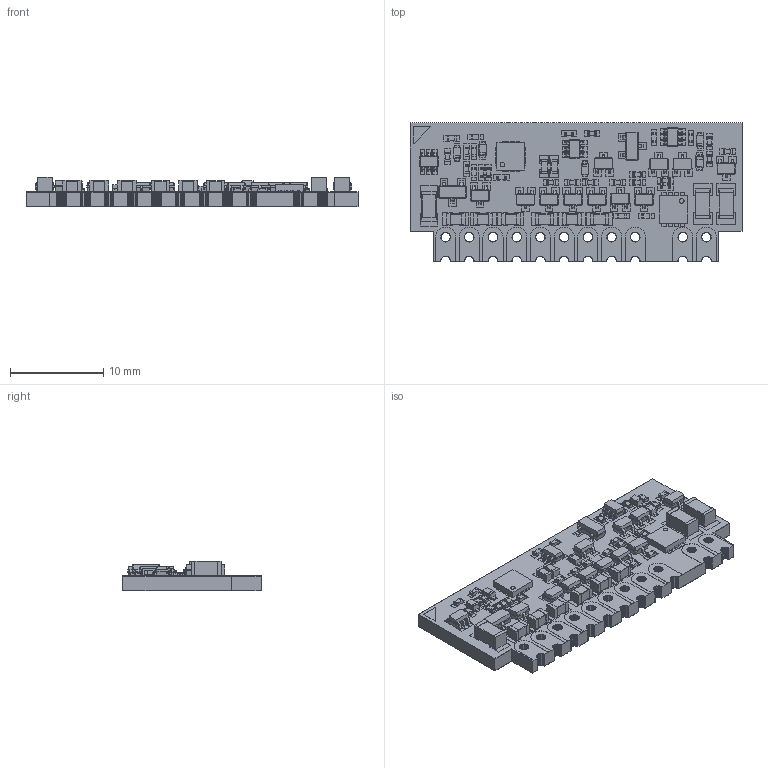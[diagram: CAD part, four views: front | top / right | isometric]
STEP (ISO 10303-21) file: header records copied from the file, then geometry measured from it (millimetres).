
FILE_DESCRIPTION(('FreeCAD Model'),'2;1');
FILE_NAME('Open CASCADE Shape Model','2025-12-16T10:20:08',(''),(''), 'Open CASCADE STEP processor 7.8','FreeCAD','Unknown');
FILE_SCHEMA(('AUTOMOTIVE_DESIGN { 1 0 10303 214 1 1 1 1 }'));
Products named in the file (1): Ag59FE_Detailed (Solid)
Bounding box: 35.56 x 14.81 x 3.2 mm (x, y, z)
Volume: 866.9 mm3; surface area: 3360.9 mm2
Topology: 80 solids, 81 shells, 4755 faces, 12960 edges, 8350 vertices
Faces by surface type: extrusion 3388, revolution 876, bspline 491
Entity records: 157120 total; most frequent: CARTESIAN_POINT 29127, ORIENTED_EDGE 25870, DIRECTION 22640, VECTOR 18258, LINE 14870, EDGE_CURVE 12940, VERTEX_POINT 8350, FACE_BOUND 5208
